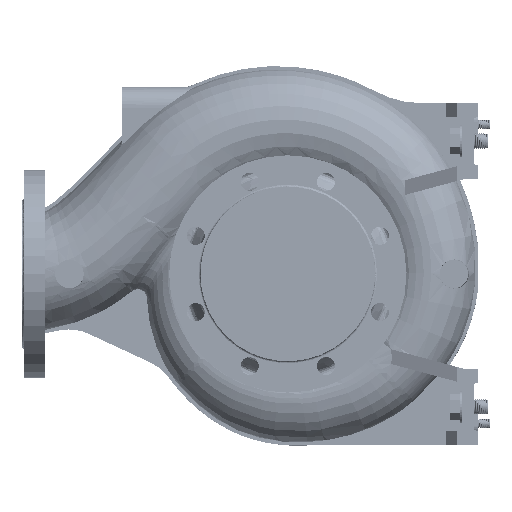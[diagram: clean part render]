
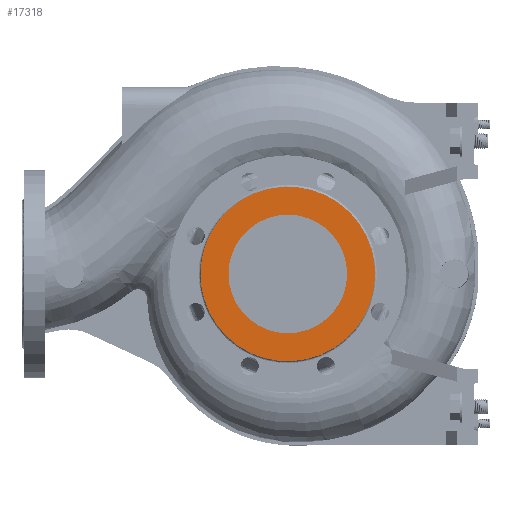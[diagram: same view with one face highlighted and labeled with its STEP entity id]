
A CAD part, left-side view. The second image highlights one B-rep face of the part: STEP entity #17318.
In plain terms, the highlighted planar face has unit normal (-1, 0, 0).
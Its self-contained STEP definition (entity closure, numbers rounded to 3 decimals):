
#109 = CARTESIAN_POINT ( 'NONE',  ( -125., -51.442, -76.988 ) ) ;
#2678 = CARTESIAN_POINT ( 'NONE',  ( -125., 92., 3.009 ) ) ;
#6393 = CARTESIAN_POINT ( 'NONE',  ( -125., -90.814, 18.064 ) ) ;
#6605 = CARTESIAN_POINT ( 'NONE',  ( -125., 80.624, -44.798 ) ) ;
#8250 = CARTESIAN_POINT ( 'NONE',  ( -125., -92., 6.021 ) ) ;
#12496 = DIRECTION ( 'NONE',  ( 1., 0., 0. ) ) ;
#14260 = CARTESIAN_POINT ( 'NONE',  ( -125., -85.545, -35.434 ) ) ;
#14844 = CARTESIAN_POINT ( 'NONE',  ( -125., 0., 62.5 ) ) ;
#17318 = ADVANCED_FACE ( 'NONE', ( #111383, #141538 ), #82195, .F. ) ;
#21474 = CARTESIAN_POINT ( 'NONE',  ( -125., -35.434, 85.545 ) ) ;
#21688 = CARTESIAN_POINT ( 'NONE',  ( -125., 51.195, -76.618 ) ) ;
#23230 = DIRECTION ( 'NONE',  ( 0., 0., -1. ) ) ;
#24094 = CARTESIAN_POINT ( 'NONE',  ( -125., 0., -62.5 ) ) ;
#28379 = CARTESIAN_POINT ( 'NONE',  ( -125., -92., -6.021 ) ) ;
#29074 = AXIS2_PLACEMENT_3D ( 'NONE', #60278, #161066, #160141 ) ;
#31904 = VERTEX_POINT ( 'NONE', #114433 ) ;
#37407 = ORIENTED_EDGE ( 'NONE', *, *, #96590, .F. ) ;
#42489 = CARTESIAN_POINT ( 'NONE',  ( -125., -92., 0. ) ) ;
#43388 = CARTESIAN_POINT ( 'NONE',  ( -125., 0.001, -92.593 ) ) ;
#46192 = CARTESIAN_POINT ( 'NONE',  ( -125., 91.704, -9.033 ) ) ;
#46809 = CIRCLE ( 'NONE', #112965, 62.5 ) ;
#46903 = CARTESIAN_POINT ( 'NONE',  ( -125., 91.704, 9.033 ) ) ;
#57543 = CARTESIAN_POINT ( 'NONE',  ( -125., -35.434, -85.545 ) ) ;
#59171 = CIRCLE ( 'NONE', #29074, 62.5 ) ;
#60137 = CARTESIAN_POINT ( 'NONE',  ( -125., 80.624, 44.798 ) ) ;
#60278 = CARTESIAN_POINT ( 'NONE',  ( -125., 0., 0. ) ) ;
#61268 = CARTESIAN_POINT ( 'NONE',  ( -125., 92., -3.009 ) ) ;
#61965 = CARTESIAN_POINT ( 'NONE',  ( -125., 88.18, 26.749 ) ) ;
#63829 = CARTESIAN_POINT ( 'NONE',  ( -125., -92., 0. ) ) ;
#68423 = VERTEX_POINT ( 'NONE', #109892 ) ;
#71679 = CARTESIAN_POINT ( 'NONE',  ( -125., -76.988, -51.442 ) ) ;
#73305 = CARTESIAN_POINT ( 'NONE',  ( -125., 90.377, 17.977 ) ) ;
#77256 = CARTESIAN_POINT ( 'NONE',  ( -125., 32.548, -86.419 ) ) ;
#79109 = CARTESIAN_POINT ( 'NONE',  ( -125., 85.133, -35.264 ) ) ;
#82195 = PLANE ( 'NONE',  #143368 ) ;
#83274 = ORIENTED_EDGE ( 'NONE', *, *, #113218, .F. ) ;
#85823 = CARTESIAN_POINT ( 'NONE',  ( -125., -90.814, -18.064 ) ) ;
#87988 = B_SPLINE_CURVE_WITH_KNOTS ( 'NONE', 3,
 ( #91169, #2678, #46903, #73305, #61965, #104374, #60137, #90278, #147720, #133568, #119437, #151425, #95818, #178750, #135440, #109007, #21474, #122221, #166480, #181507, #179688, #6393, #8250, #63829 ),
 .UNSPECIFIED., .F., .F.,
 ( 4, 1, 1, 1, 1, 1, 1, 1, 1, 1, 1, 1, 1, 1, 1, 1, 1, 1, 1, 1, 1, 4 ),
 ( 0., 0.009, 0.018, 0.027, 0.036, 0.045, 0.059, 0.073, 0.082, 0.091, 0.1, 0.109, 0.127, 0.145, 0.163, 0.181, 0.199, 0.218, 0.236, 0.254, 0.272, 0.29 ),
 .UNSPECIFIED. ) ;
#90278 = CARTESIAN_POINT ( 'NONE',  ( -125., 74.163, 55.003 ) ) ;
#90484 = CARTESIAN_POINT ( 'NONE',  ( -125., 92., 0. ) ) ;
#91169 = CARTESIAN_POINT ( 'NONE',  ( -125., 92., 0. ) ) ;
#92338 = CARTESIAN_POINT ( 'NONE',  ( -125., 88.18, -26.749 ) ) ;
#93874 = CARTESIAN_POINT ( 'NONE',  ( -125., 0., 0. ) ) ;
#95818 = CARTESIAN_POINT ( 'NONE',  ( -125., 32.548, 86.419 ) ) ;
#96590 = EDGE_CURVE ( 'NONE', #31904, #68423, #87988, .T. ) ;
#99001 = ORIENTED_EDGE ( 'NONE', *, *, #130429, .F. ) ;
#104374 = CARTESIAN_POINT ( 'NONE',  ( -125., 85.133, 35.264 ) ) ;
#104587 = CARTESIAN_POINT ( 'NONE',  ( -125., 58.458, -71.231 ) ) ;
#107391 = CARTESIAN_POINT ( 'NONE',  ( -125., 90.377, -17.977 ) ) ;
#108204 = EDGE_CURVE ( 'NONE', #68423, #31904, #129708, .T. ) ;
#109007 = CARTESIAN_POINT ( 'NONE',  ( -125., -18.064, 90.814 ) ) ;
#109892 = CARTESIAN_POINT ( 'NONE',  ( -125., -92., 0. ) ) ;
#111383 = FACE_BOUND ( 'NONE', #178393, .T. ) ;
#112965 = AXIS2_PLACEMENT_3D ( 'NONE', #93874, #152261, #23230 ) ;
#113218 = EDGE_CURVE ( 'NONE', #169668, #168742, #46809, .T. ) ;
#114433 = CARTESIAN_POINT ( 'NONE',  ( -125., 92., 0. ) ) ;
#118720 = CARTESIAN_POINT ( 'NONE',  ( -125., 18.062, -90.815 ) ) ;
#119437 = CARTESIAN_POINT ( 'NONE',  ( -125., 51.195, 76.618 ) ) ;
#122221 = CARTESIAN_POINT ( 'NONE',  ( -125., -51.442, 76.988 ) ) ;
#129152 = CARTESIAN_POINT ( 'NONE',  ( -125., -65.473, -65.473 ) ) ;
#129708 = B_SPLINE_CURVE_WITH_KNOTS ( 'NONE', 3,
 ( #42489, #28379, #85823, #14260, #71679, #129152, #109, #57543, #172444, #43388, #118720, #77256, #134720, #21688, #104587, #161144, #136570, #6605, #79109, #92338, #107391, #46192, #61268, #90484 ),
 .UNSPECIFIED., .F., .F.,
 ( 4, 1, 1, 1, 1, 1, 1, 1, 1, 1, 1, 1, 1, 1, 1, 1, 1, 1, 1, 1, 1, 4 ),
 ( 0., 0.018, 0.036, 0.054, 0.072, 0.091, 0.109, 0.127, 0.145, 0.163, 0.181, 0.19, 0.199, 0.208, 0.217, 0.231, 0.244, 0.254, 0.263, 0.272, 0.281, 0.29 ),
 .UNSPECIFIED. ) ;
#130429 = EDGE_CURVE ( 'NONE', #168742, #169668, #59171, .T. ) ;
#133568 = CARTESIAN_POINT ( 'NONE',  ( -125., 58.458, 71.231 ) ) ;
#134720 = CARTESIAN_POINT ( 'NONE',  ( -125., 43.438, -81.267 ) ) ;
#135440 = CARTESIAN_POINT ( 'NONE',  ( -125., 0.001, 92.593 ) ) ;
#136570 = CARTESIAN_POINT ( 'NONE',  ( -125., 74.163, -55.003 ) ) ;
#141538 = FACE_OUTER_BOUND ( 'NONE', #185213, .T. ) ;
#143368 = AXIS2_PLACEMENT_3D ( 'NONE', #184830, #12496, #154715 ) ;
#147720 = CARTESIAN_POINT ( 'NONE',  ( -125., 66.273, 64.149 ) ) ;
#151425 = CARTESIAN_POINT ( 'NONE',  ( -125., 43.438, 81.267 ) ) ;
#152261 = DIRECTION ( 'NONE',  ( -1., 0., 0. ) ) ;
#154715 = DIRECTION ( 'NONE',  ( 0., 0., -1. ) ) ;
#160141 = DIRECTION ( 'NONE',  ( 0., 0., -1. ) ) ;
#161066 = DIRECTION ( 'NONE',  ( -1., 0., 0. ) ) ;
#161144 = CARTESIAN_POINT ( 'NONE',  ( -125., 66.273, -64.149 ) ) ;
#166480 = CARTESIAN_POINT ( 'NONE',  ( -125., -65.473, 65.473 ) ) ;
#168742 = VERTEX_POINT ( 'NONE', #24094 ) ;
#169668 = VERTEX_POINT ( 'NONE', #14844 ) ;
#172444 = CARTESIAN_POINT ( 'NONE',  ( -125., -18.064, -90.814 ) ) ;
#178393 = EDGE_LOOP ( 'NONE', ( #99001, #83274 ) ) ;
#178750 = CARTESIAN_POINT ( 'NONE',  ( -125., 18.062, 90.815 ) ) ;
#179688 = CARTESIAN_POINT ( 'NONE',  ( -125., -85.545, 35.434 ) ) ;
#181507 = CARTESIAN_POINT ( 'NONE',  ( -125., -76.988, 51.442 ) ) ;
#182839 = ORIENTED_EDGE ( 'NONE', *, *, #108204, .F. ) ;
#184830 = CARTESIAN_POINT ( 'NONE',  ( -125., -93.104, 93.104 ) ) ;
#185213 = EDGE_LOOP ( 'NONE', ( #182839, #37407 ) ) ;
